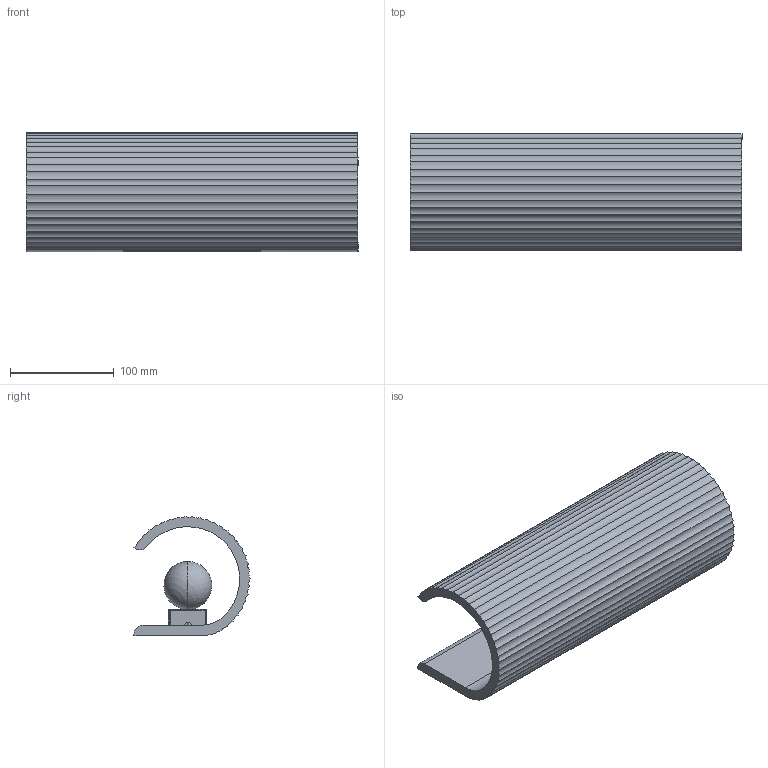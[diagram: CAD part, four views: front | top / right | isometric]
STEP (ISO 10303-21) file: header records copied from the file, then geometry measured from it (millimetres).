
FILE_DESCRIPTION(/* description */ (''),/* implementation_level */ '2;1');
FILE_NAME(/* name */ '63436.step',/* time_stamp */ '2024-10-17T13:08:49+02:00',/* author */ ('RenataManzini'),/* organization */ (''),/* preprocessor_version */ 'ST-DEVELOPER v20',/* originating_system */ 'AutoCAD Mechanical',/* authorisation */ '');
FILE_SCHEMA (('AUTOMOTIVE_DESIGN { 1 0 10303 214 3 1 1 }'));
Length unit declared in the file: millimetre
Products named in the file (2): Product; Trama_2L - novo-477849-_3D_
Assembly tree (1 placements, depth 2):
  Product
    Trama_2L - novo-477849-_3D_
Bounding box: 320 x 111.91 x 114.91 mm (x, y, z)
Volume: 948530.9 mm3; surface area: 251014.6 mm2
Topology: 13 solids, 13 shells, 211 faces, 466 edges, 279 vertices
Faces by surface type: plane 98, cylinder 89, cone 16, bspline 4, sphere 4
Entity records: 5989 total; most frequent: CARTESIAN_POINT 1212, DIRECTION 1052, ORIENTED_EDGE 920, EDGE_CURVE 460, AXIS2_PLACEMENT_3D 397, VERTEX_POINT 274, LINE 258, VECTOR 258
